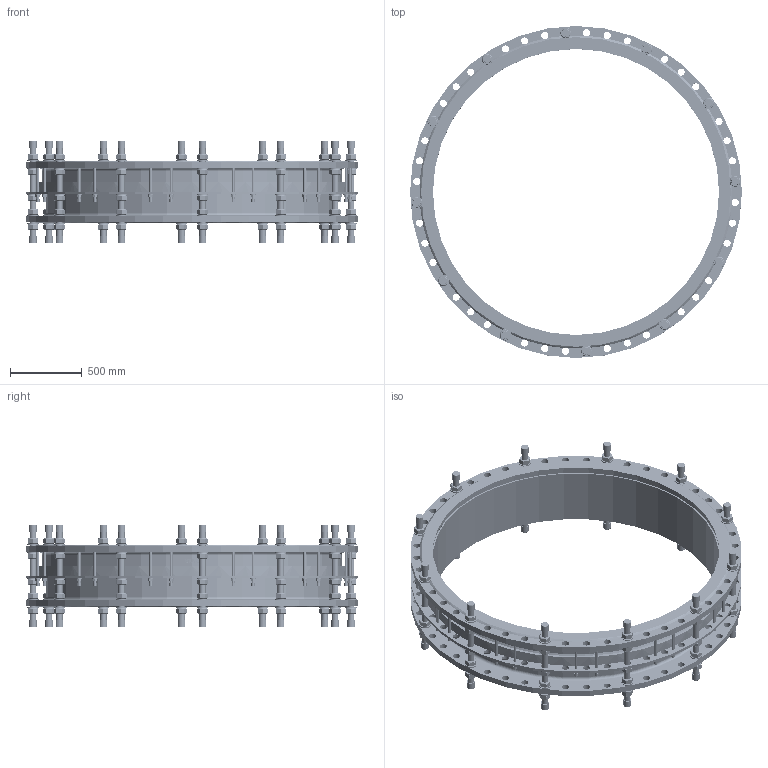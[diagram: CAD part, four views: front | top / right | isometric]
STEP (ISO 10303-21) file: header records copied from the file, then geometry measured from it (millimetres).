
FILE_DESCRIPTION(('STEP AP242'), '1');
FILE_NAME('Ìîíòàæíàÿ âñòàâêà', '', ('UNSPECIFIED'), ('UNSPECIFIED'), 'C3D Converter', 'C3D Toolkit', '');
FILE_SCHEMA(('AP242_MANAGED_MODEL_BASED_3D_ENGINEERING_MIM_LF { 1 0 10303 442 1 1 4 }'));
Length unit declared in the file: millimetre
Products named in the file (13): ШМ.М16.310; ШМ.М16.206
Assembly tree (256 placements, depth 2):
  (unnamed)
    (unnamed)
    (unnamed)
    (unnamed)
    (unnamed)
    (unnamed)  x60
    (unnamed)  x60
    ШМ.М16.310  x12
    (unnamed)  x24
    (unnamed)  x24
    (unnamed)  x24
    ШМ.М16.206  x24
    (unnamed)  x24
Bounding box: 2320 x 2320 x 719 mm (x, y, z)
Volume: 211063820.7 mm3; surface area: 19877178.9 mm2
Topology: 260 solids, 260 shells, 2200 faces, 4893 edges, 3148 vertices
Faces by surface type: plane 1127, cylinder 598, cone 414, torus 50, extrusion 11
Full cylindrical faces by diameter (mm): 20 x96, 21 x24, 23 x24, 24 x24, 33.221 x1, 37 x24, 45 x96, 46 x60, 50 x144, 54 x24, 82 x60, 2000 x2, 2038 x2, 2057 x2, 2095 x1, 2114 x1, 2142 x1, 2180 x1, 2320 x3
Entity records: 31118 total; most frequent: CARTESIAN_POINT 13185, DIRECTION 2826, ORIENTED_EDGE 2018, AXIS2_PLACEMENT_3D 1376, EDGE_CURVE 1009, EDGE_LOOP 899, VERTEX_POINT 812, CIRCLE 770
